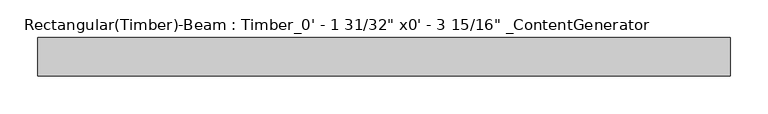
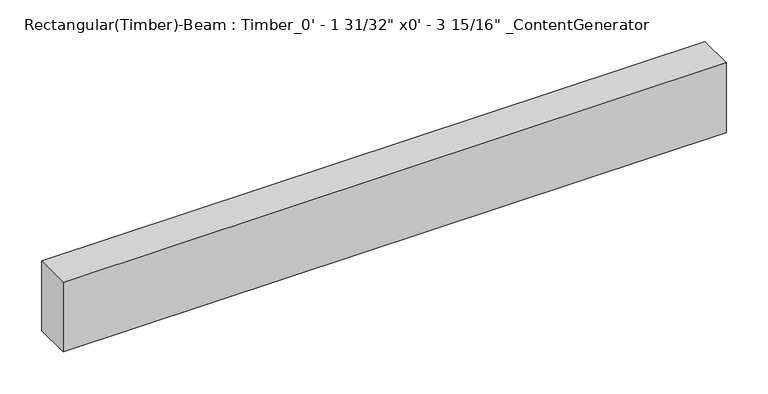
"""IFC4 building model written with IfcOpenShell, lengths in millimetres: beam geometry."""

from ifc_helpers import new_model, si_unit, frame, origin, place, context, project, spatial, polyline, outline, extrude, source, transform, mapped, element, save


def beam_14325a6d(model_context):
    return source(origin(), model_context, "Body", "SweptSolid", [
        extrude(outline(polyline([(457.2099994, 25.4), (457.2099994, -25.4), (-457.19, -25.4), (-457.19, 25.4), (457.2099994, 25.4)])), frame((0.0, 0.0, -50.8), z_axis=(0.0, 0.0, 1.0), x_axis=(1.0, 0.0, 0.0)), (0.0, 0.0, 1.0), 101.6),
    ])


if __name__ == "__main__":
    model = new_model("IFC4")
    model_context = context("Model", 3, world=origin())
    ifc_project = project(units=[si_unit("LENGTHUNIT", "METRE", prefix="MILLI")], contexts=[model_context])
    site = spatial("IfcSite", under=ifc_project)
    building = spatial("IfcBuilding", under=site)
    placement = place(None, origin())
    beam_shape = beam_14325a6d(model_context)
    element("IfcBeam", 1, ObjectType="Rectangular(Timber)-Beam : Timber_0' - 1 31/32\" x0' - 3 15/16\" _ContentGenerator", at=placement, inside=building, context=model_context, shape_type="MappedRepresentation", body=[
        mapped(beam_shape, transform((0.0, 0.0, 0.0), x_axis=(1.0, 0.0, 0.0), y_axis=(0.0, 1.0, 0.0), z_axis=(0.0, 0.0, 1.0))),
    ])
    save(model, "model.ifc")
